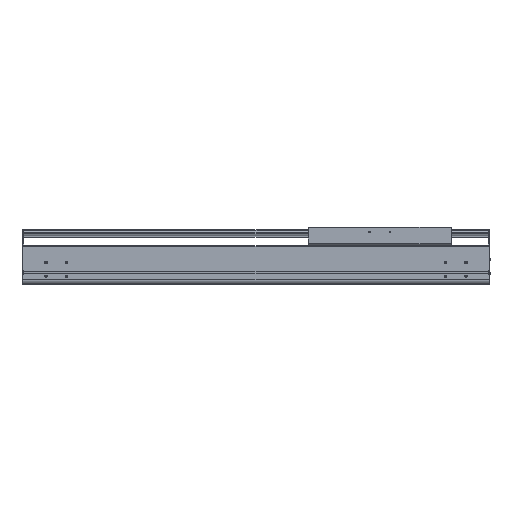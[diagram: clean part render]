
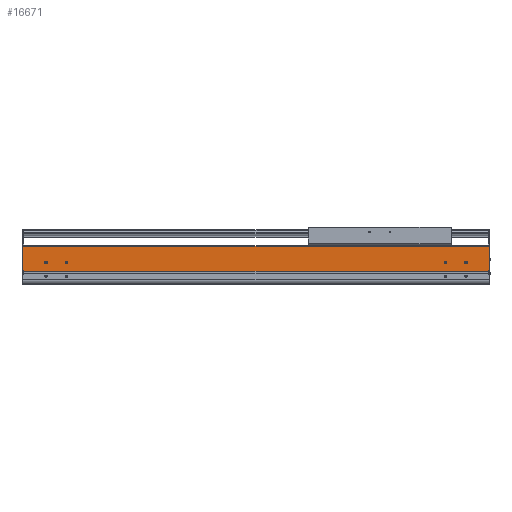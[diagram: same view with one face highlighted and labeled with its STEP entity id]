
A CAD part, top view. The second image highlights one B-rep face of the part: STEP entity #16671.
In plain terms, the highlighted planar face has unit normal (0, 0, 1).
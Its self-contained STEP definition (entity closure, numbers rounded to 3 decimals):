
#525=DIRECTION('',(0.,-1.,0.));
#526=VECTOR('',#525,2.55);
#527=CARTESIAN_POINT('',(0.,34.65,107.));
#528=LINE('',#527,#526);
#2150=DIRECTION('',(1.,0.,0.));
#2151=VECTOR('',#2150,2.);
#2152=CARTESIAN_POINT('',(0.,34.65,107.));
#2153=LINE('',#2152,#2151);
#2158=CARTESIAN_POINT('',(-54.5,54.,107.));
#2159=DIRECTION('',(0.,0.,-1.));
#2160=DIRECTION('',(1.,0.,0.));
#2161=AXIS2_PLACEMENT_3D('',#2158,#2159,#2160);
#2163=CARTESIAN_POINT('',(-54.5,54.,107.));
#2164=DIRECTION('',(0.,0.,-1.));
#2165=DIRECTION('',(-1.,0.,0.));
#2166=AXIS2_PLACEMENT_3D('',#2163,#2164,#2165);
#2168=CARTESIAN_POINT('',(-104.5,54.,107.));
#2169=DIRECTION('',(0.,0.,-1.));
#2170=DIRECTION('',(1.,0.,0.));
#2171=AXIS2_PLACEMENT_3D('',#2168,#2169,#2170);
#2173=CARTESIAN_POINT('',(-104.5,54.,107.));
#2174=DIRECTION('',(0.,0.,-1.));
#2175=DIRECTION('',(-1.,0.,0.));
#2176=AXIS2_PLACEMENT_3D('',#2173,#2174,#2175);
#2178=CARTESIAN_POINT('',(-1084.5,54.,107.));
#2179=DIRECTION('',(0.,0.,-1.));
#2180=DIRECTION('',(1.,0.,0.));
#2181=AXIS2_PLACEMENT_3D('',#2178,#2179,#2180);
#2183=CARTESIAN_POINT('',(-1084.5,54.,107.));
#2184=DIRECTION('',(0.,0.,-1.));
#2185=DIRECTION('',(-1.,0.,0.));
#2186=AXIS2_PLACEMENT_3D('',#2183,#2184,#2185);
#2188=CARTESIAN_POINT('',(-1034.5,54.,107.));
#2189=DIRECTION('',(0.,0.,-1.));
#2190=DIRECTION('',(1.,0.,0.));
#2191=AXIS2_PLACEMENT_3D('',#2188,#2189,#2190);
#2193=CARTESIAN_POINT('',(-1034.5,54.,107.));
#2194=DIRECTION('',(0.,0.,-1.));
#2195=DIRECTION('',(-1.,0.,0.));
#2196=AXIS2_PLACEMENT_3D('',#2193,#2194,#2195);
#2198=DIRECTION('',(0.,-1.,0.));
#2199=VECTOR('',#2198,2.55);
#2200=CARTESIAN_POINT('',(-1139.,34.65,107.));
#2201=LINE('',#2200,#2199);
#2202=DIRECTION('',(0.,-1.,0.));
#2203=VECTOR('',#2202,58.85);
#2204=CARTESIAN_POINT('',(-1141.,93.5,107.));
#2205=LINE('',#2204,#2203);
#2206=DIRECTION('',(0.,1.,0.));
#2207=VECTOR('',#2206,58.85);
#2208=CARTESIAN_POINT('',(2.,34.65,107.));
#2209=LINE('',#2208,#2207);
#2210=DIRECTION('',(1.,0.,0.));
#2211=VECTOR('',#2210,1139.);
#2212=CARTESIAN_POINT('',(-1139.,32.1,107.));
#2213=LINE('',#2212,#2211);
#2322=DIRECTION('',(1.,0.,0.));
#2323=VECTOR('',#2322,2.);
#2324=CARTESIAN_POINT('',(-1141.,34.65,107.));
#2325=LINE('',#2324,#2323);
#2334=DIRECTION('',(-1.,0.,0.));
#2335=VECTOR('',#2334,1143.);
#2336=CARTESIAN_POINT('',(2.,93.5,107.));
#2337=LINE('',#2336,#2335);
#11029=CARTESIAN_POINT('',(-1141.,34.65,107.));
#11030=VERTEX_POINT('',#11029);
#11031=CARTESIAN_POINT('',(-1141.,93.5,107.));
#11032=VERTEX_POINT('',#11031);
#11261=CARTESIAN_POINT('',(-1139.,32.1,107.));
#11262=VERTEX_POINT('',#11261);
#11723=CARTESIAN_POINT('',(0.,32.1,107.));
#11724=VERTEX_POINT('',#11723);
#11725=CARTESIAN_POINT('',(-52.,54.,107.));
#11726=CARTESIAN_POINT('',(-57.,54.,107.));
#11727=VERTEX_POINT('',#11725);
#11728=VERTEX_POINT('',#11726);
#11729=CARTESIAN_POINT('',(-102.,54.,107.));
#11730=CARTESIAN_POINT('',(-107.,54.,107.));
#11731=VERTEX_POINT('',#11729);
#11732=VERTEX_POINT('',#11730);
#11733=CARTESIAN_POINT('',(-1082.,54.,107.));
#11734=CARTESIAN_POINT('',(-1087.,54.,107.));
#11735=VERTEX_POINT('',#11733);
#11736=VERTEX_POINT('',#11734);
#11737=CARTESIAN_POINT('',(-1032.,54.,107.));
#11738=CARTESIAN_POINT('',(-1037.,54.,107.));
#11739=VERTEX_POINT('',#11737);
#11740=VERTEX_POINT('',#11738);
#12780=CARTESIAN_POINT('',(2.,34.65,107.));
#12781=VERTEX_POINT('',#12780);
#12782=CARTESIAN_POINT('',(2.,93.5,107.));
#12783=VERTEX_POINT('',#12782);
#13126=CARTESIAN_POINT('',(0.,34.65,107.));
#13127=VERTEX_POINT('',#13126);
#13314=CARTESIAN_POINT('',(-1139.,34.65,107.));
#13315=VERTEX_POINT('',#13314);
#16629=CARTESIAN_POINT('',(-569.5,62.8,107.));
#16630=DIRECTION('',(0.,0.,1.));
#16631=DIRECTION('',(0.,-1.,0.));
#16632=AXIS2_PLACEMENT_3D('',#16629,#16630,#16631);
#16633=PLANE('',#16632);
#16634=ORIENTED_EDGE('',*,*,#14098,.F.);
#16636=ORIENTED_EDGE('',*,*,#16635,.F.);
#16637=ORIENTED_EDGE('',*,*,#15197,.F.);
#16639=ORIENTED_EDGE('',*,*,#16638,.F.);
#16640=ORIENTED_EDGE('',*,*,#16427,.F.);
#16641=ORIENTED_EDGE('',*,*,#16622,.F.);
#16642=ORIENTED_EDGE('',*,*,#14713,.T.);
#16644=ORIENTED_EDGE('',*,*,#16643,.F.);
#16645=EDGE_LOOP('',(#16634,#16636,#16637,#16639,#16640,#16641,#16642,#16644));
#16646=FACE_OUTER_BOUND('',#16645,.F.);
#16648=ORIENTED_EDGE('',*,*,#16647,.F.);
#16650=ORIENTED_EDGE('',*,*,#16649,.F.);
#16651=EDGE_LOOP('',(#16648,#16650));
#16652=FACE_BOUND('',#16651,.F.);
#16654=ORIENTED_EDGE('',*,*,#16653,.F.);
#16656=ORIENTED_EDGE('',*,*,#16655,.F.);
#16657=EDGE_LOOP('',(#16654,#16656));
#16658=FACE_BOUND('',#16657,.F.);
#16660=ORIENTED_EDGE('',*,*,#16659,.F.);
#16662=ORIENTED_EDGE('',*,*,#16661,.F.);
#16663=EDGE_LOOP('',(#16660,#16662));
#16664=FACE_BOUND('',#16663,.F.);
#16666=ORIENTED_EDGE('',*,*,#16665,.F.);
#16668=ORIENTED_EDGE('',*,*,#16667,.F.);
#16669=EDGE_LOOP('',(#16666,#16668));
#16670=FACE_BOUND('',#16669,.F.);
#16671=ADVANCED_FACE('',(#16646,#16652,#16658,#16664,#16670),#16633,.T.);
#2162=CIRCLE('',#2161,2.5);
#2167=CIRCLE('',#2166,2.5);
#2172=CIRCLE('',#2171,2.5);
#2177=CIRCLE('',#2176,2.5);
#2182=CIRCLE('',#2181,2.5);
#2187=CIRCLE('',#2186,2.5);
#2192=CIRCLE('',#2191,2.5);
#2197=CIRCLE('',#2196,2.5);
#14098=EDGE_CURVE('',#13315,#11262,#2201,.T.);
#14713=EDGE_CURVE('',#13127,#11724,#528,.T.);
#15197=EDGE_CURVE('',#11032,#11030,#2205,.T.);
#16427=EDGE_CURVE('',#12781,#12783,#2209,.T.);
#16622=EDGE_CURVE('',#13127,#12781,#2153,.T.);
#16635=EDGE_CURVE('',#11030,#13315,#2325,.T.);
#16638=EDGE_CURVE('',#12783,#11032,#2337,.T.);
#16643=EDGE_CURVE('',#11262,#11724,#2213,.T.);
#16647=EDGE_CURVE('',#11731,#11732,#2172,.T.);
#16649=EDGE_CURVE('',#11732,#11731,#2177,.T.);
#16653=EDGE_CURVE('',#11735,#11736,#2182,.T.);
#16655=EDGE_CURVE('',#11736,#11735,#2187,.T.);
#16659=EDGE_CURVE('',#11739,#11740,#2192,.T.);
#16661=EDGE_CURVE('',#11740,#11739,#2197,.T.);
#16665=EDGE_CURVE('',#11727,#11728,#2162,.T.);
#16667=EDGE_CURVE('',#11728,#11727,#2167,.T.);
